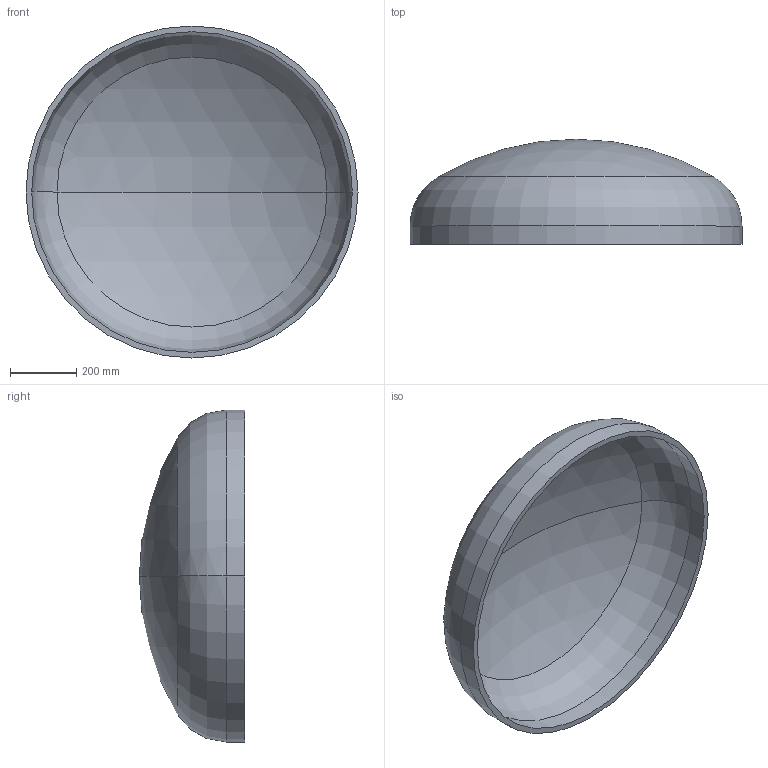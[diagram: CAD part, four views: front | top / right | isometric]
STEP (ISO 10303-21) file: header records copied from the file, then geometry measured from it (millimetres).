
FILE_DESCRIPTION (( 'STEP AP203' ), '1' );
FILE_NAME ('DIN 28013 Korbbogenform_-_Boden DIN 28013 - 1000 x 55 - I - s=17.step', '2016-07-01T08:43:33', ( '' ), ( '' ), 'SwSTEP 2.0', 'SolidWorks 2013', '' );
FILE_SCHEMA (( 'CONFIG_CONTROL_DESIGN' ));
Length unit declared in the file: millimetre
Products named in the file (1): DIN 28013 Korbbogenform_-_Boden DIN 28013 - 1000 x 55 - I - s=17
Bounding box: 1000 x 316.63 x 1000 mm (x, y, z)
Volume: 20992627.9 mm3; surface area: 2522824.6 mm2
Topology: 1 solids, 1 shells, 13 faces, 24 edges, 14 vertices
Faces by surface type: torus 4, cylinder 4, sphere 4, plane 1
Entity records: 407 total; most frequent: DIRECTION 72, CARTESIAN_POINT 52, ORIENTED_EDGE 48, AXIS2_PLACEMENT_3D 34, EDGE_CURVE 24, CIRCLE 20, EDGE_LOOP 14, VERTEX_POINT 14
